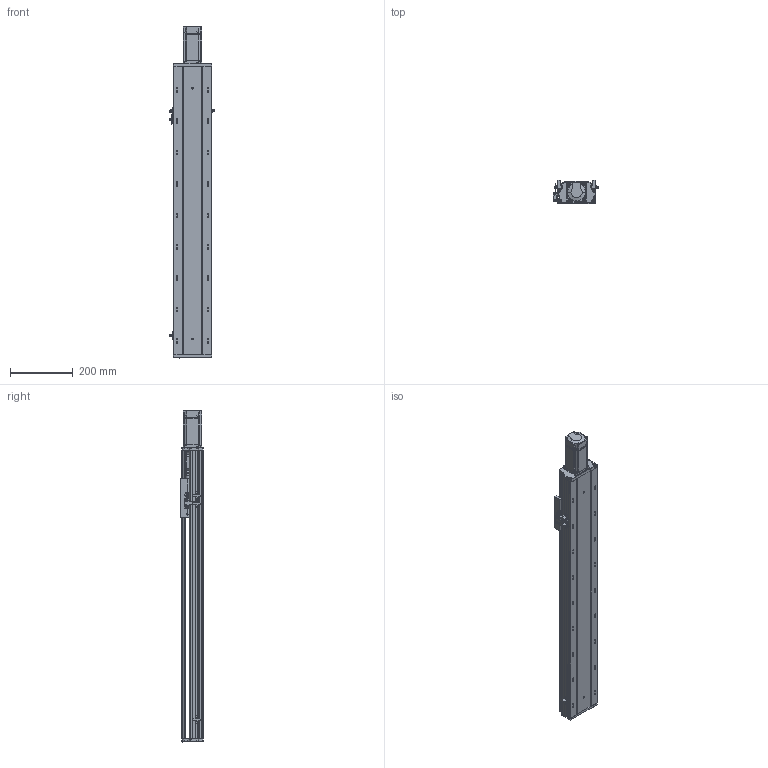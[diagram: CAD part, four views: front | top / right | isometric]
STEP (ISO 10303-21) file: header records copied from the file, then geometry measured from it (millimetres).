
FILE_DESCRIPTION (( 'STEP AP203' ), '1' );
FILE_NAME ('RYK120-L1610-S650-M40-C3-MK.STEP', '2026-03-09T07:36:13', ( '' ), ( '' ), 'SwSTEP 2.0', 'SolidWorks 2016', '' );
FILE_SCHEMA (( 'CONFIG_CONTROL_DESIGN' ));
Length unit declared in the file: millimetre
Products named in the file (17): 2.10.1.C521-V1.0RY120臏賑輸16蹟譫-啞-JZZY-NRL-L1899; 滅袉蝶18-10; RY120QGB-1.8; RY120电机端支撑座-压铸加工-M5; CB╱T 3762-1996[锥形润滑油嘴1-ZM10×1]_1-ZM10×1; RY120外置感应片(140共用）; RY120綴裔啣; 滅袉蝶18-24; 15; 侂狟400W侜督萇儂; RYK120-300-MK-菁釱-啞_650; 覜茼ん672; RYK120-300-MK-奻裔啣-啞_650; RYK170-薊粣ん芵隴裔啣; RYK120-L1610-S650-M40-C3-MK; RY120-16螺母油路-集中注油组合; 44-49-12-14
Assembly tree (21 placements, depth 3):
  RYK120-L1610-S650-M40-C3-MK
    RYK120-300-MK-菁釱-啞_650
    RYK120-300-MK-奻裔啣-啞_650
    RY120綴裔啣
    滅袉蝶18-24  x2
    滅袉蝶18-10  x2
    覜茼ん672  x3
    RY120外置感应片(140共用）
    RY120QGB-1.8
    RY120-16螺母油路-集中注油组合
      2.10.1.C521-V1.0RY120臏賑輸16蹟譫-啞-JZZY-NRL-L1899
      CB╱T 3762-1996[锥形润滑油嘴1-ZM10×1]_1-ZM10×1  x2
    RY120电机端支撑座-压铸加工-M5
    RYK170-薊粣ん芵隴裔啣
    44-49-12-14
    侂狟400W侜督萇儂
      15
Bounding box: 145.7 x 73 x 1058.5 mm (x, y, z)
Volume: 2929915.6 mm3; surface area: 1011594 mm2
Topology: 23 solids, 23 shells, 2670 faces, 7446 edges, 4771 vertices
Faces by surface type: plane 1221, cylinder 1059, cone 263, bspline 127
Entity records: 89958 total; most frequent: CARTESIAN_POINT 26444, ORIENTED_EDGE 13408, DIRECTION 12179, EDGE_CURVE 6704, VERTEX_POINT 4383, AXIS2_PLACEMENT_3D 4190, LINE 3799, VECTOR 3799
